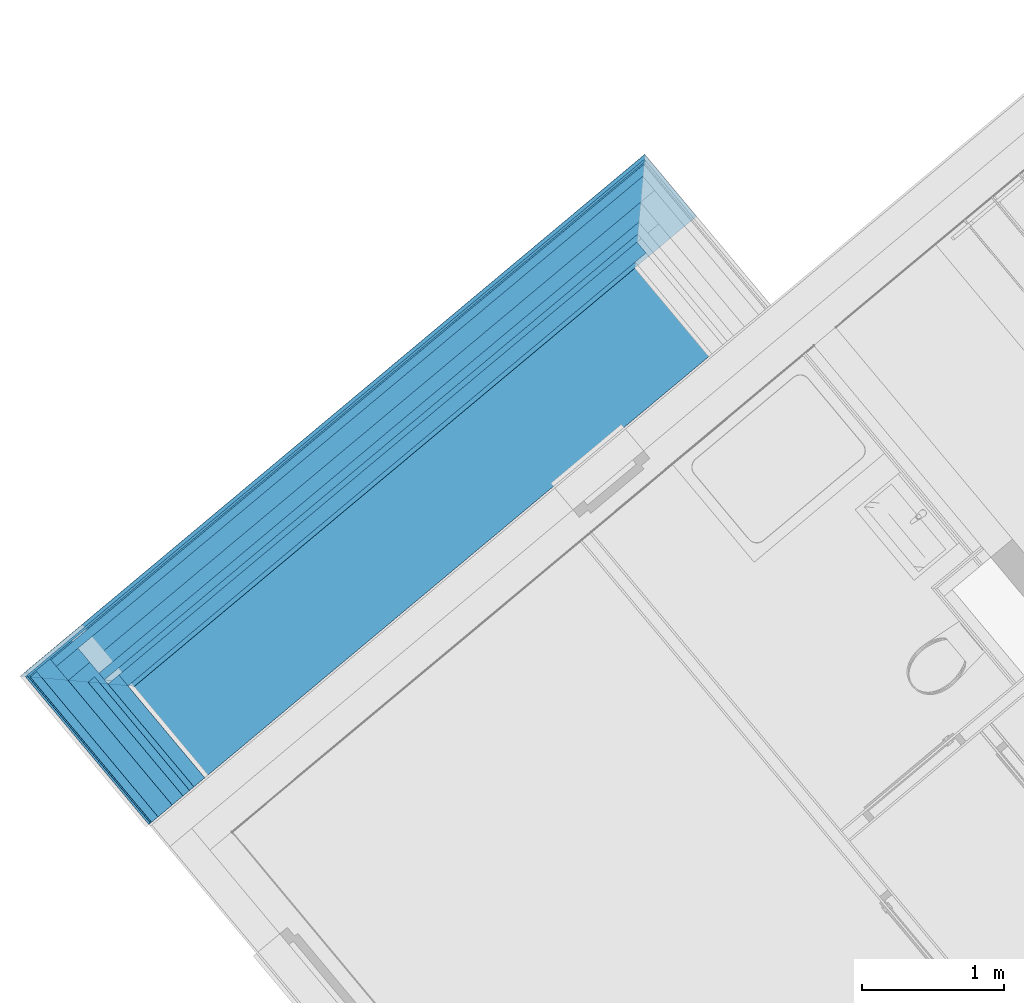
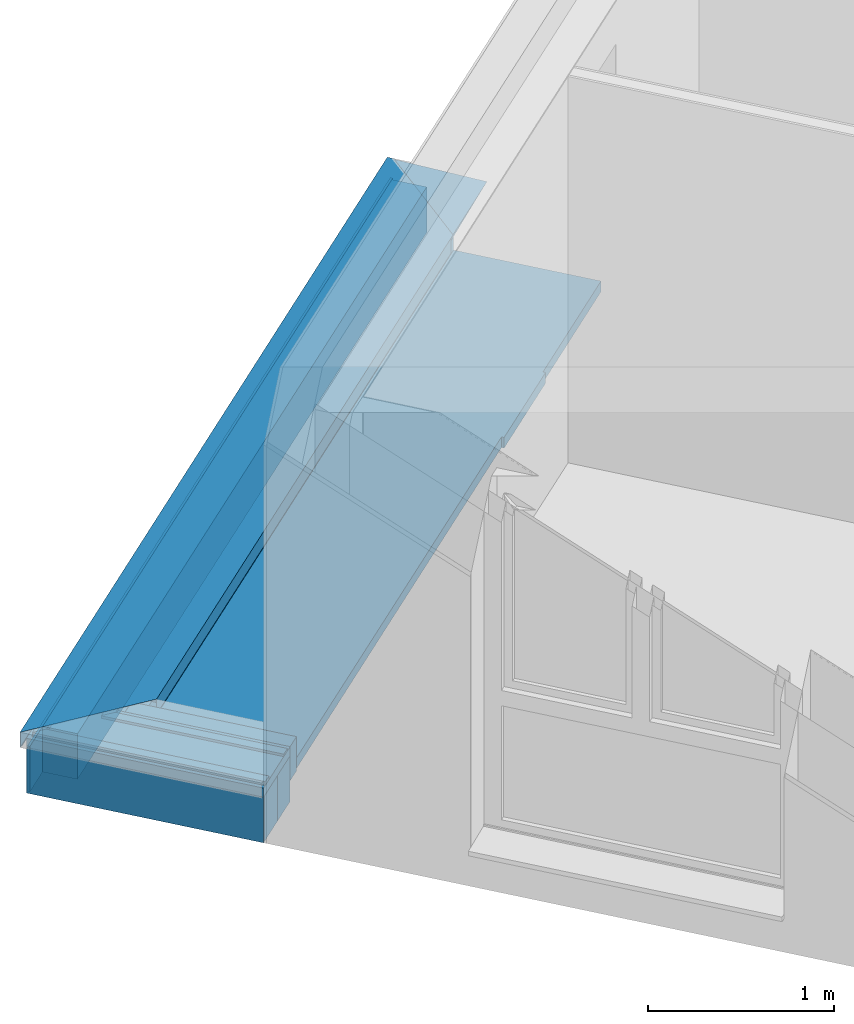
# One storey, part 23 of 58: 16 building element parts, 3 elements without a shape of their own.
"""IFC4 building model written with IfcOpenShell, lengths in metres."""

from ifc_helpers import new_model, entity, si_unit, converted_unit, derived_unit, direction, frame, origin_with_axes, place, context, subcontext, project, spatial, polygons, material, type_object, element, aggregate, save


model = new_model("IFC4")

# Units and contexts
model_context = context("Model", 3, precision=1e-05, world=origin_with_axes(), true_north=direction((0.0, 1.0)))
body_context = subcontext(model_context, "Body", "Model", "MODEL_VIEW")
ifc_project = project(units=[si_unit("LENGTHUNIT", "METRE"), si_unit("AREAUNIT", "SQUARE_METRE"), si_unit("VOLUMEUNIT", "CUBIC_METRE"), converted_unit("PLANEANGLEUNIT", "DEGREE", entity("IfcPlaneAngleMeasure", 0.0174532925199), si_unit("PLANEANGLEUNIT", "RADIAN"), dimensions=[0, 0, 0, 0, 0, 0, 0]), converted_unit("TIMEUNIT", "Year", entity("IfcTimeMeasure", 31556926.0), si_unit("TIMEUNIT", "SECOND"), dimensions=[0, 0, 1, 0, 0, 0, 0]), si_unit("MASSUNIT", "GRAM", prefix="KILO"), si_unit("THERMODYNAMICTEMPERATUREUNIT", "DEGREE_CELSIUS"), si_unit("LUMINOUSINTENSITYUNIT", "LUMEN"), si_unit("ENERGYUNIT", "JOULE", prefix="MEGA"), derived_unit("THERMALCONDUCTANCEUNIT", [(si_unit("POWERUNIT", "WATT"), 1), (si_unit("LENGTHUNIT", "METRE"), -1), (si_unit("THERMODYNAMICTEMPERATUREUNIT", "KELVIN"), -1)]), derived_unit("SPECIFICHEATCAPACITYUNIT", [(si_unit("ENERGYUNIT", "JOULE"), 1), (si_unit("MASSUNIT", "GRAM", prefix="KILO"), -1), (si_unit("THERMODYNAMICTEMPERATUREUNIT", "KELVIN"), -1)]), derived_unit("MASSDENSITYUNIT", [(si_unit("MASSUNIT", "GRAM", prefix="KILO"), 1), (si_unit("VOLUMEUNIT", "CUBIC_METRE"), -1)])], contexts=[model_context])

# Site, building, storey
site_placement = place(None, frame((-0.00153261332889, -0.00661245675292, 0.0), z_axis=(0.0, 0.0, 1.0), x_axis=(1.0, 0.0, 0.0)))
site = spatial("IfcSite", under=ifc_project, at=site_placement, Name="Site", CompositionType="ELEMENT")
building_placement = place(site_placement, origin_with_axes())
building = spatial("IfcBuilding", under=site, at=building_placement, Name="Building", CompositionType="ELEMENT")
storey_placement = place(building_placement, frame((0.0, 0.0, 5.7), z_axis=(0.0, 0.0, 1.0), x_axis=(1.0, 0.0, 0.0)))
storey = spatial("IfcBuildingStorey", under=building, at=storey_placement, Name="DG1", CompositionType="ELEMENT", Elevation=5.7)

# Wall, building element parts
wall_type = type_object("IfcWallType", Name="Bauteil - Attika Terrasse 1.DG 574 x 410", PredefinedType="NOTDEFINED")
wall_1_placement = place(storey_placement, frame((-9.25321199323, 20.0359436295, -0.2), z_axis=(0.0, 0.0, 1.0), x_axis=(0.641209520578, -0.767365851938, 0.0)))
wall_1 = element("IfcWall", 1, at=wall_1_placement, inside=storey, type_object=wall_type, Name="Wand-004", PredefinedType="NOTDEFINED")
ifc_material_1 = material(Name="EPS 1")
building_element_part_1_placement = place(wall_1_placement, origin_with_axes())
building_element_part_1 = element("IfcBuildingElementPart", 2, at=building_element_part_1_placement, material=ifc_material_1, Name="EPS 1", PredefinedType="NOTDEFINED", context=body_context, shape_type="Tessellation", body=[
    polygons([(0.200001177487, 0.3, 0.519224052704), (0.200001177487, 0.3, 0.559999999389), (1.14646030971, 0.3, 0.560000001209), (1.14646030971, 0.3, 0.335), (0.200001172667, 0.3, 0.335), (0.200001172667, 0.3, 0.488695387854), (0.200001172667, 0.3, 0.49100648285), (0.200001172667, 0.3, 0.498822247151), (0.200001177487, 0.3, 0.500000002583), (0.200001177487, 0.3, 0.50905023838), (0.200001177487, 0.3, 0.511361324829), (0.200000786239, 0.2, 0.559999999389), (0.200000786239, 0.2, 0.519224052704), (1.14646030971, 0.2, 0.560000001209), (1.14646030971, 0.2, 0.335), (0.20000078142, 0.2, 0.335), (0.20000078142, 0.2, 0.488695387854), (0.20000078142, 0.2, 0.49100648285), (0.20000078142, 0.2, 0.498822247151), (0.200000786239, 0.2, 0.500000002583), (0.200000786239, 0.2, 0.50905023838), (0.200000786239, 0.2, 0.511361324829)], [[[1, 2, 3, 4, 5, 6, 7, 8, 9, 10, 11]], [[12, 2, 1, 13]], [[2, 12, 14, 3]], [[15, 4, 3, 14]], [[16, 5, 4, 15]], [[17, 6, 5, 16]], [[18, 7, 6, 17]], [[19, 8, 7, 18]], [[20, 9, 8, 19]], [[21, 10, 9, 20]], [[22, 11, 10, 21]], [[13, 1, 11, 22]], [[12, 13, 22, 21, 20, 19, 18, 17, 16, 15, 14]]], closed=True),
])
ifc_material_2 = material(Name="Vollholz")
building_element_part_2_placement = place(wall_1_placement, origin_with_axes())
building_element_part_2 = element("IfcBuildingElementPart", 3, at=building_element_part_2_placement, material=ifc_material_2, Name="Vollholz", PredefinedType="NOTDEFINED", context=body_context, shape_type="Tessellation", body=[
    polygons([(0.10000038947, 0.1, 0.573880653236), (0.10000062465, 0.160110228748, 0.573880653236), (0.100000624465, 0.160063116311, 0.567947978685), (0.10000038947, 0.1, 0.567947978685), (0.10000038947, 0.1, 0.575979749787), (1.14646030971, 0.160110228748, 0.573880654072), (1.14646030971, 0.16, 0.560000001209), (0.100000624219, 0.16, 0.559999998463), (0.10000038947, 0.1, 0.559999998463), (1.14646030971, 0.1, 0.560000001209), (1.14646030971, 0.1, 0.575979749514)], [[[1, 2, 3, 4]], [[5, 2, 1]], [[3, 2, 6, 7, 8]], [[4, 3, 8, 9]], [[5, 1, 4, 9, 10, 11]], [[2, 5, 11, 6]], [[7, 6, 11, 10]], [[9, 8, 7, 10]]], closed=True),
])
ifc_material_3 = material(Name="Stahlbeton")
building_element_part_3_placement = place(wall_1_placement, origin_with_axes())
building_element_part_3 = element("IfcBuildingElementPart", 4, at=building_element_part_3_placement, material=ifc_material_3, Name="Stahlbeton", PredefinedType="NOTDEFINED", context=body_context, shape_type="Tessellation", body=[
    polygons([(7.82254769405e-07, 0.199999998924, 0.498822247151), (7.82254769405e-07, 0.199999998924, 0.499999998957), (1.14646030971, 0.199999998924, 0.500000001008), (1.14646030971, 0.199999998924, 0.335000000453), (7.82254769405e-07, 0.199999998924, 0.335), (7.82254769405e-07, 0.199999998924, 0.488695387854), (7.82254769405e-07, 0.199999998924, 0.49100648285), (-2.39900543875e-10, 1.82835524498e-09, 0.499999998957), (-2.39900543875e-10, 1.82835524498e-09, 0.498822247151), (1.14646030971, 1.82835346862e-09, 0.500000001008), (1.14646030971, 0.199999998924, 0.2), (1.14646030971, 1.82835346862e-09, 0.2), (7.82254772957e-07, 0.199999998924, 0.2), (-2.39900543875e-10, 1.82835524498e-09, 0.488695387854), (-2.39900543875e-10, 1.82835524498e-09, 0.335), (-2.39900543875e-10, 1.82835524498e-09, 0.49100648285), (-2.39900543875e-10, 1.82835524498e-09, 0.2)], [[[1, 2, 3, 4, 5, 6, 7]], [[8, 2, 1, 9]], [[2, 8, 10, 3]], [[11, 4, 3, 10, 12]], [[13, 5, 4, 11]], [[14, 6, 5, 15]], [[16, 7, 6, 14]], [[9, 1, 7, 16]], [[8, 9, 16, 14, 15, 17, 12, 10]], [[17, 13, 11, 12]], [[15, 5, 13, 17]]], closed=True),
])
building_element_part_4_placement = place(wall_1_placement, origin_with_axes())
building_element_part_4 = element("IfcBuildingElementPart", 5, at=building_element_part_4_placement, material=ifc_material_1, Name="EPS 1", PredefinedType="NOTDEFINED", context=body_context, shape_type="Tessellation", body=[
    polygons([(-0.199999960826, -2.39910313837e-10, 0.498822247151), (-0.199999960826, -2.39910313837e-10, 0.499999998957), (1.14646030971, -2.39910313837e-10, 0.499999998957), (1.14646030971, -2.39910313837e-10, 0.2), (-0.199999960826, -2.39910313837e-10, 0.2), (-0.199999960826, -2.39910313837e-10, 0.335), (-0.199999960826, -2.39910313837e-10, 0.488695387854), (-0.199999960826, -2.39910313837e-10, 0.49100648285), (-0.200000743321, -0.19999996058, 0.499999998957), (-0.200000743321, -0.19999996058, 0.498822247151), (1.14646030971, -0.19999996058, 0.499999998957), (1.14646030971, -0.19999996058, 0.2), (-0.200000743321, -0.19999996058, 0.2), (-0.200000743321, -0.19999996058, 0.335), (-0.200000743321, -0.19999996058, 0.488695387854), (-0.200000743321, -0.19999996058, 0.49100648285)], [[[1, 2, 3, 4, 5, 6, 7, 8]], [[9, 2, 1, 10]], [[2, 9, 11, 3]], [[12, 4, 3, 11]], [[13, 5, 4, 12]], [[14, 6, 5, 13]], [[15, 7, 6, 14]], [[16, 8, 7, 15]], [[10, 1, 8, 16]], [[9, 10, 16, 15, 14, 13, 12, 11]]], closed=True),
])
building_element_part_5_placement = place(wall_1_placement, origin_with_axes())
building_element_part_5 = element("IfcBuildingElementPart", 6, at=building_element_part_5_placement, material=ifc_material_2, Name="Vollholz", PredefinedType="NOTDEFINED", context=body_context, shape_type="Tessellation", body=[
    polygons([(-0.189996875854, -0.189996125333, 0.584015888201), (-0.18999664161, -0.130124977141, 0.584015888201), (-0.190039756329, -0.130124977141, 0.575979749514), (-0.190039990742, -0.190039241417, 0.575979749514), (-0.189985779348, -0.189984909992, 0.58610624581), (1.14646030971, -0.130124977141, 0.584015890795), (1.14646030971, -0.130124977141, 0.560000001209), (-0.190125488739, -0.130124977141, 0.559999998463), (-0.190082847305, -0.130124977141, 0.567947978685), (-0.190051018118, -0.130124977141, 0.573880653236), (-0.190051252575, -0.190050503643, 0.573880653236), (-0.190083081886, -0.190082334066, 0.567947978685), (-0.190125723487, -0.190124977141, 0.559999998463), (1.14646030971, -0.190124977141, 0.560000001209), (1.14646030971, -0.189984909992, 0.586106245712)], [[[1, 2, 3, 4]], [[5, 2, 1]], [[3, 2, 6, 7, 8, 9, 10]], [[4, 3, 10, 11]], [[5, 1, 4, 11, 12, 13, 14, 15]], [[2, 5, 15, 6]], [[7, 6, 15, 14]], [[13, 8, 7, 14]], [[12, 9, 8, 13]], [[11, 10, 9, 12]]], closed=True),
])
ifc_material_4 = material(Name="Zementputz")
building_element_part_6_placement = place(wall_1_placement, origin_with_axes())
building_element_part_6 = element("IfcBuildingElementPart", 7, at=building_element_part_6_placement, material=ifc_material_4, Name="Zementputz", PredefinedType="NOTDEFINED", context=body_context, shape_type="Tessellation", body=[
    polygons([(-0.215000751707, -0.199999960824, 0.2), (-0.215000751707, -0.199999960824, 0.499999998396), (1.14646030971, -0.199999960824, 0.499999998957), (1.14646030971, -0.199999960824, 0.2), (-0.215000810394, -0.214999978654, 0.2), (-0.215000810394, -0.214999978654, 0.499999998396), (1.14646030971, -0.214999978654, 0.499999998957), (1.14646030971, -0.214999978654, 0.2)], [[[1, 2, 3, 4]], [[2, 1, 5, 6]], [[2, 6, 7, 3]], [[8, 4, 3, 7]], [[5, 1, 4, 8]], [[6, 5, 8, 7]]], closed=True),
])
ifc_material_5 = material(Name="Brettschichtholz")
building_element_part_7_placement = place(wall_1_placement, origin_with_axes())
building_element_part_7 = element("IfcBuildingElementPart", 8, at=building_element_part_7_placement, material=ifc_material_5, Name="Brettschichtholz", PredefinedType="NOTDEFINED", context=body_context, shape_type="Tessellation", body=[
    polygons([(-0.214999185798, 0.200000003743, 0.519224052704), (-0.214999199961, 0.200000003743, 0.559999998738), (1.14646030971, 0.200000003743, 0.559999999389), (1.14646030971, 0.200000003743, 0.500000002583), (-0.214999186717, 0.200000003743, 0.499999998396), (-0.214999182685, 0.200000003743, 0.50905023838), (-0.21499918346, 0.200000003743, 0.511361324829), (-0.21499935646, 0.159999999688, 0.559999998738), (-0.215000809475, -0.214999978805, 0.519224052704), (-0.215000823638, -0.214999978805, 0.559999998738), (-0.215000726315, -0.190124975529, 0.559999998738), (-0.215000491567, -0.130124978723, 0.559999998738), (-0.214999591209, 0.100000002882, 0.559999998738), (1.14646030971, 0.159999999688, 0.559999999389), (1.14646030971, 0.100000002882, 0.559999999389), (1.14646030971, -0.130124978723, 0.559999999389), (1.14646030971, -0.190124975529, 0.559999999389), (1.14646030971, -0.214999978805, 0.559999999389), (1.14646030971, -0.214999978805, 0.499999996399), (-0.215000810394, -0.214999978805, 0.499999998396), (-0.215000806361, -0.214999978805, 0.50905023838), (-0.215000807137, -0.214999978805, 0.511361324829)], [[[1, 2, 3, 4, 5, 6, 7]], [[8, 2, 1, 9, 10, 11, 12, 13]], [[2, 8, 14, 3]], [[15, 16, 17, 18, 19, 4, 3, 14]], [[19, 20, 5, 4]], [[21, 6, 5, 20]], [[22, 7, 6, 21]], [[9, 1, 7, 22]], [[10, 9, 22, 21, 20, 19, 18]], [[11, 10, 18, 17]], [[12, 11, 17, 16]], [[13, 12, 16, 15]], [[8, 13, 15, 14]]], closed=True),
])
aggregate(wall_1, [building_element_part_1, building_element_part_2, building_element_part_3, building_element_part_4, building_element_part_5, building_element_part_6, building_element_part_7])

wall_2_placement = place(storey_placement, frame((-9.25321199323, 20.0359436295, -0.2), z_axis=(0.0, 0.0, 1.0), x_axis=(0.767368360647, 0.641206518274, 0.0)))
wall_2 = element("IfcWall", 9, at=wall_2_placement, inside=storey, type_object=wall_type, Name="Wand-004", PredefinedType="NOTDEFINED")
building_element_part_8_placement = place(wall_2_placement, origin_with_axes())
building_element_part_8 = element("IfcBuildingElementPart", 10, at=building_element_part_8_placement, material=ifc_material_4, Name="Zementputz", PredefinedType="NOTDEFINED", context=body_context, shape_type="Tessellation", body=[
    polygons([(-0.200000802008, 0.214999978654, 0.499999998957), (-0.200000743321, 0.199999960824, 0.499999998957), (5.48474512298, 0.199999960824, 0.499999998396), (5.48474506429, 0.214999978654, 0.499999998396), (-0.200000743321, 0.199999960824, 0.498822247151), (-0.200000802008, 0.214999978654, 0.498822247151), (-0.200000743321, 0.199999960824, 0.49100648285), (-0.200000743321, 0.199999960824, 0.488695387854), (-0.200000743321, 0.199999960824, 0.335), (-0.200000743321, 0.199999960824, 0.2), (5.48474512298, 0.199999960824, 0.2), (5.48474506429, 0.214999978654, 0.2), (-0.200000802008, 0.214999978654, 0.2), (-0.200000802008, 0.214999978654, 0.335), (-0.200000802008, 0.214999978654, 0.488695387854), (-0.200000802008, 0.214999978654, 0.49100648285)], [[[1, 2, 3, 4]], [[5, 2, 1, 6]], [[2, 5, 7, 8, 9, 10, 11, 3]], [[4, 3, 11, 12]], [[6, 1, 4, 12, 13, 14, 15, 16]], [[5, 6, 16, 7]], [[7, 16, 15, 8]], [[8, 15, 14, 9]], [[9, 14, 13, 10]], [[10, 13, 12, 11]]], closed=True),
])
building_element_part_9_placement = place(wall_2_placement, origin_with_axes())
building_element_part_9 = element("IfcBuildingElementPart", 11, at=building_element_part_9_placement, material=ifc_material_2, Name="Vollholz", PredefinedType="NOTDEFINED", context=body_context, shape_type="Tessellation", body=[
    polygons([(5.45974132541, 0.189996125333, 0.584015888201), (5.45974155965, 0.130124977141, 0.584015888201), (5.45978467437, 0.130124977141, 0.575979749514), (5.45978443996, 0.190039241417, 0.575979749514), (5.45973022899, 0.189984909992, 0.58610624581), (-0.130125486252, 0.130124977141, 0.584015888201), (-0.130125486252, 0.130124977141, 0.575979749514), (-0.130125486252, 0.130124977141, 0.573880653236), (-0.130125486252, 0.130124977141, 0.567947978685), (-0.130125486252, 0.130124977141, 0.560000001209), (5.45987040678, 0.130124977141, 0.559999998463), (5.45982776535, 0.130124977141, 0.567947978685), (5.45979593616, 0.130124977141, 0.573880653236), (5.4597957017, 0.190050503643, 0.573880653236), (5.45982753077, 0.190082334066, 0.567947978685), (5.45987017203, 0.190124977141, 0.559999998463), (-0.130125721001, 0.190124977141, 0.560000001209), (-0.130125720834, 0.190082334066, 0.567947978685), (-0.130125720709, 0.190050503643, 0.573880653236), (-0.130125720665, 0.190039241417, 0.575979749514), (-0.130125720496, 0.189996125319, 0.584015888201), (-0.189985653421, 0.189984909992, 0.586106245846)], [[[1, 2, 3, 4]], [[5, 2, 1]], [[3, 2, 6, 7, 8, 9, 10, 11, 12, 13]], [[4, 3, 13, 14]], [[5, 1, 4, 14, 15, 16, 17, 18, 19, 20, 21, 22]], [[2, 5, 22, 6]], [[6, 21, 20, 7]], [[7, 20, 19, 8]], [[8, 19, 18, 9]], [[9, 18, 17, 10]], [[16, 11, 10, 17]], [[15, 12, 11, 16]], [[14, 13, 12, 15]], [[21, 6, 22]]], closed=True),
])
building_element_part_10_placement = place(wall_2_placement, origin_with_axes())
building_element_part_10 = element("IfcBuildingElementPart", 12, at=building_element_part_10_placement, material=ifc_material_1, Name="EPS 1", PredefinedType="NOTDEFINED", context=body_context, shape_type="Tessellation", body=[
    polygons([(5.46974589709, 2.39911202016e-10, 0.498822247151), (5.46974589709, 2.39911202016e-10, 0.499999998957), (-2.3990853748e-10, 2.39907649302e-10, 0.499999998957), (-2.39910313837e-10, 2.39907649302e-10, 0.498822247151), (-2.39910313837e-10, 2.39907649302e-10, 0.49100648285), (-2.39910313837e-10, 2.39907649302e-10, 0.488695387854), (-2.39910313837e-10, 2.39907649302e-10, 0.335), (-2.39910313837e-10, 2.39907649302e-10, 0.2), (5.46974589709, 2.39911202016e-10, 0.2), (5.46974589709, 2.39911202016e-10, 0.335), (5.46974589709, 2.39911202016e-10, 0.488695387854), (5.46974589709, 2.39911202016e-10, 0.49100648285), (5.4697451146, 0.19999996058, 0.499999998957), (5.4697451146, 0.19999996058, 0.498822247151), (-7.82734434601e-07, 0.19999996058, 0.499999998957), (-7.82734435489e-07, 0.19999996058, 0.498822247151), (-7.82734435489e-07, 0.19999996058, 0.49100648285), (-7.82734435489e-07, 0.19999996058, 0.488695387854), (-7.82734435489e-07, 0.19999996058, 0.335), (-7.82734435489e-07, 0.19999996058, 0.2), (5.4697451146, 0.19999996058, 0.2), (5.4697451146, 0.19999996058, 0.335), (5.4697451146, 0.19999996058, 0.488695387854), (5.4697451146, 0.19999996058, 0.49100648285)], [[[1, 2, 3, 4, 5, 6, 7, 8, 9, 10, 11, 12]], [[13, 2, 1, 14]], [[2, 13, 15, 3]], [[4, 3, 15, 16]], [[4, 16, 17, 5]], [[5, 17, 18, 6]], [[6, 18, 19, 7]], [[7, 19, 20, 8]], [[21, 9, 8, 20]], [[22, 10, 9, 21]], [[23, 11, 10, 22]], [[24, 12, 11, 23]], [[14, 1, 12, 24]], [[13, 14, 24, 23, 22, 21, 20, 19, 18, 17, 16, 15]]], closed=True),
])
building_element_part_11_placement = place(wall_2_placement, origin_with_axes())
building_element_part_11 = element("IfcBuildingElementPart", 13, at=building_element_part_11_placement, material=ifc_material_3, Name="Stahlbeton", PredefinedType="NOTDEFINED", context=body_context, shape_type="Tessellation", body=[
    polygons([(5.269746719, -0.199999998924, 0.498822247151), (5.269746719, -0.199999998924, 0.499999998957), (0.20000078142, -0.199999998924, 0.500000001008), (0.20000078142, -0.199999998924, 0.498822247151), (0.20000078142, -0.199999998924, 0.49100648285), (0.20000078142, -0.199999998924, 0.488695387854), (0.20000078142, -0.199999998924, 0.335), (5.269746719, -0.199999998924, 0.335), (5.269746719, -0.199999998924, 0.488695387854), (5.269746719, -0.199999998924, 0.49100648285), (5.2697459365, -1.82835790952e-09, 0.499999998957), (5.2697459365, -1.82835790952e-09, 0.498822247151), (0.199999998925, -1.82835790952e-09, 0.500000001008), (0.199999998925, -1.82835790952e-09, 0.498822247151), (0.199999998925, -1.82835790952e-09, 0.49100648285), (0.199999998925, -1.82835790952e-09, 0.488695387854), (0.199999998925, -1.82835790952e-09, 0.335), (5.269746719, -0.199999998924, 0.2), (0.20000078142, -0.199999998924, 0.2), (5.2697459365, -1.82835790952e-09, 0.488695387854), (5.2697459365, -1.82835790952e-09, 0.335), (5.2697459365, -1.82835790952e-09, 0.49100648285), (5.2697459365, -1.82835790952e-09, 0.2), (0.199999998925, -1.82835790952e-09, 0.2)], [[[1, 2, 3, 4, 5, 6, 7, 8, 9, 10]], [[11, 2, 1, 12]], [[2, 11, 13, 3]], [[4, 3, 13, 14]], [[4, 14, 15, 5]], [[5, 15, 16, 6]], [[6, 16, 17, 7]], [[18, 8, 7, 19]], [[20, 9, 8, 21]], [[22, 10, 9, 20]], [[12, 1, 10, 22]], [[11, 12, 22, 20, 21, 23, 24, 17, 16, 15, 14, 13]], [[7, 17, 24, 19]], [[21, 8, 18, 23]], [[23, 18, 19, 24]]], closed=True),
])
building_element_part_12_placement = place(wall_2_placement, origin_with_axes())
building_element_part_12 = element("IfcBuildingElementPart", 14, at=building_element_part_12_placement, material=ifc_material_2, Name="Vollholz", PredefinedType="NOTDEFINED", context=body_context, shape_type="Tessellation", body=[
    polygons([(5.16974632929, -0.1, 0.573880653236), (5.16974656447, -0.160110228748, 0.573880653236), (5.16974656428, -0.160063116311, 0.567947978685), (5.16974632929, -0.1, 0.567947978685), (5.16974632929, -0.1, 0.575979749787), (0.160110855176, -0.160110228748, 0.573880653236), (0.160063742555, -0.160063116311, 0.567947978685), (0.160000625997, -0.16, 0.560000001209), (5.16974656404, -0.16, 0.559999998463), (5.16974632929, -0.1, 0.559999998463), (0.160000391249, -0.1, 0.560000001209), (0.16006350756, -0.1, 0.567947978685), (0.160110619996, -0.1, 0.573880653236), (0.100000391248, -0.1, 0.575979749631)], [[[1, 2, 3, 4]], [[5, 2, 1]], [[3, 2, 6, 7, 8, 9]], [[4, 3, 9, 10]], [[5, 1, 4, 10, 11, 12, 13, 14]], [[2, 5, 14, 6]], [[6, 13, 12, 7]], [[7, 12, 11, 8]], [[10, 9, 8, 11]], [[13, 6, 14]]], closed=True),
])
building_element_part_13_placement = place(wall_2_placement, origin_with_axes())
building_element_part_13 = element("IfcBuildingElementPart", 15, at=building_element_part_13_placement, material=ifc_material_1, Name="EPS 1", PredefinedType="NOTDEFINED", context=body_context, shape_type="Tessellation", body=[
    polygons([(5.06974710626, -0.3, 0.519224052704), (5.06974710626, -0.3, 0.559999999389), (0.300001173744, -0.3, 0.560000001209), (0.300001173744, -0.3, 0.519224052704), (0.300001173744, -0.3, 0.511361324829), (0.300001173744, -0.3, 0.50905023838), (0.300001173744, -0.3, 0.499999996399), (0.300001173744, -0.3, 0.498822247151), (0.300001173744, -0.3, 0.49100648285), (0.300001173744, -0.3, 0.488695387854), (0.300001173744, -0.3, 0.335), (5.06974711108, -0.3, 0.335), (5.06974711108, -0.3, 0.488695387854), (5.06974711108, -0.3, 0.49100648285), (5.06974711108, -0.3, 0.498822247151), (5.06974710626, -0.3, 0.500000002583), (5.06974710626, -0.3, 0.50905023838), (5.06974710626, -0.3, 0.511361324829), (5.06974671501, -0.2, 0.559999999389), (5.06974671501, -0.2, 0.519224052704), (0.300000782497, -0.2, 0.560000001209), (0.300000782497, -0.2, 0.519224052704), (0.300000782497, -0.2, 0.511361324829), (0.300000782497, -0.2, 0.50905023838), (0.300000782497, -0.2, 0.499999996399), (0.300000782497, -0.2, 0.498822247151), (0.300000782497, -0.2, 0.49100648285), (0.300000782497, -0.2, 0.488695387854), (0.300000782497, -0.2, 0.335), (5.06974671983, -0.2, 0.335), (5.06974671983, -0.2, 0.488695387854), (5.06974671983, -0.2, 0.49100648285), (5.06974671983, -0.2, 0.498822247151), (5.06974671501, -0.2, 0.500000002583), (5.06974671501, -0.2, 0.50905023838), (5.06974671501, -0.2, 0.511361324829)], [[[1, 2, 3, 4, 5, 6, 7, 8, 9, 10, 11, 12, 13, 14, 15, 16, 17, 18]], [[19, 2, 1, 20]], [[2, 19, 21, 3]], [[4, 3, 21, 22]], [[4, 22, 23, 5]], [[5, 23, 24, 6]], [[6, 24, 25, 7]], [[7, 25, 26, 8]], [[8, 26, 27, 9]], [[9, 27, 28, 10]], [[10, 28, 29, 11]], [[30, 12, 11, 29]], [[31, 13, 12, 30]], [[32, 14, 13, 31]], [[33, 15, 14, 32]], [[34, 16, 15, 33]], [[35, 17, 16, 34]], [[36, 18, 17, 35]], [[20, 1, 18, 36]], [[19, 20, 36, 35, 34, 33, 32, 31, 30, 29, 28, 27, 26, 25, 24, 23, 22, 21]]], closed=True),
])
ifc_material_6 = material(Name="Holzwerkstoff")
building_element_part_14_placement = place(wall_2_placement, origin_with_axes())
building_element_part_14 = element("IfcBuildingElementPart", 16, at=building_element_part_14_placement, material=ifc_material_6, Name="Holzwerkstoff", PredefinedType="NOTDEFINED", context=body_context, shape_type="Tessellation", body=[
    polygons([(0.330207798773, -0.160110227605, 0.573880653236), (0.330001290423, -0.329999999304, 0.567947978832), (0.330208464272, -0.330207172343, 0.573880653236), (5.10963631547, -0.160110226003, 0.573880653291), (4.93974723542, -0.329999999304, 0.567947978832), (0.330281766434, -0.330280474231, 0.57597974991), (5.10963700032, -0.330207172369, 0.573880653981), (5.16974722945, -0.330280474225, 0.575979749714), (5.39987221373, -0.33056110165, 0.58401588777), (5.45973213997, -0.33063409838, 0.586106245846), (5.50974721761, -0.33069508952, 0.587852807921), (5.50974426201, -0.330698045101, 0.587937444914), (0.330699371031, -0.330698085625, 0.587938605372), (0.330635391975, -0.330634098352, 0.586106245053), (0.330562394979, -0.330561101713, 0.584015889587), (0.330280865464, -0.100000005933, 0.575979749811), (5.16974632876, -0.100000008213, 0.575979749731), (5.39987041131, 0.130124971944, 0.58401588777), (5.45972997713, 0.189984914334, 0.586106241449), (5.50974498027, 0.239999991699, 0.587852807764), (5.50974202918, 0.239997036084, 0.587937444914), (-0.239277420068, 0.239276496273, 0.608570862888), (5.50902149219, 0.239276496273, 0.608570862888), (0.330697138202, 0.23999699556, 0.587938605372), (0.330694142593, 0.239999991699, 0.587852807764), (0.330633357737, 0.189985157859, 0.586106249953), (0.330560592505, 0.130124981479, 0.584015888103)], [[[1, 2, 3]], [[2, 1, 4, 5]], [[6, 3, 2, 5, 7, 8, 9, 10, 11, 12, 13, 14, 15]], [[3, 6, 16, 1]], [[1, 16, 17, 4]], [[5, 4, 7]], [[7, 4, 17, 8]], [[8, 17, 18, 9]], [[18, 19, 10, 9]], [[19, 20, 11, 10]], [[20, 21, 12, 11]], [[22, 13, 12, 23]], [[14, 13, 24, 25, 26]], [[15, 14, 26, 27]], [[16, 6, 15, 27]], [[16, 27, 18, 17]], [[27, 26, 19, 18]], [[26, 25, 20, 19]], [[25, 24, 22, 23, 21, 20]], [[21, 23, 12]], [[13, 22, 24]]], closed=True),
])
ifc_material_7 = material(Name="Stahl")
building_element_part_15_placement = place(wall_2_placement, origin_with_axes())
building_element_part_15 = element("IfcBuildingElementPart", 17, at=building_element_part_15_placement, material=ifc_material_7, Name="Stahl", PredefinedType="NOTDEFINED", context=body_context, shape_type="Tessellation", body=[
    polygons([(-0.238232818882, 0.238231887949, 0.51136132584), (-0.231374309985, 0.231373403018, 0.518219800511), (-0.231374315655, 0.233287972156, 0.518219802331), (-0.238232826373, 0.240146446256, 0.511361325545), (-0.240543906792, 0.240542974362, 0.50905023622), (5.51028796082, 0.240542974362, 0.50905023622), (5.51124525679, 0.239585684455, 0.510007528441), (5.51124525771, 0.238231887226, 0.511361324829), (5.50989145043, 0.23823188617, 0.511361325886), (5.50303300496, 0.231373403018, 0.518219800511), (-0.232284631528, 0.232283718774, 0.519224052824), (5.50202875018, 0.232283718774, 0.519224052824), (5.50989144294, 0.240146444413, 0.511361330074), (-0.23823283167, 0.241500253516, 0.511361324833), (-0.239586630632, 0.241500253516, 0.510007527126), (5.5112452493, 0.241500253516, 0.510007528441), (5.5112452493, 0.241500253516, 0.610006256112), (5.5112453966, 0.202730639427, 0.608602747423), (5.51124525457, 0.240152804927, 0.608602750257), (5.51124525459, 0.240146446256, 0.51136132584), (-0.240147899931, 0.240146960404, 0.519224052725), (-0.240147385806, 0.240146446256, 0.51136132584), (5.50989780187, 0.240152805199, 0.608602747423), (-0.202731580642, 0.240152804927, 0.608602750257), (-0.240153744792, 0.240152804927, 0.608602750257), (-0.240153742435, 0.240152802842, 0.608570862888), (-0.240152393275, 0.240151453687, 0.587938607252), (-0.240152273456, 0.240151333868, 0.586106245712), (-0.240152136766, 0.240151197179, 0.584015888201), (-0.240151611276, 0.240150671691, 0.575979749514), (-0.240151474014, 0.24015053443, 0.573880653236), (-0.240151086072, 0.240150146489, 0.567947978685), (-0.240150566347, 0.240149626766, 0.559999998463), (-0.240147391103, 0.241500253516, 0.511361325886), (-0.240147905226, 0.241500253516, 0.519224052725), (-0.240150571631, 0.241500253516, 0.559999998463), (-0.240151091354, 0.241500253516, 0.567947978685), (-0.240151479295, 0.241500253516, 0.573880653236), (-0.240151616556, 0.241500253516, 0.575979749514), (-0.240152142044, 0.241500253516, 0.584015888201), (-0.240152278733, 0.241500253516, 0.586106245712), (-0.240152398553, 0.241500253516, 0.587938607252), (-0.240153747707, 0.241500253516, 0.608570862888), (-0.240153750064, 0.241500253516, 0.608602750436), (-0.202731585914, 0.241500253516, 0.608602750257), (-0.241501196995, 0.241500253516, 0.610006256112), (-0.202731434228, 0.202730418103, 0.608602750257), (-0.201850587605, 0.201849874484, 0.608570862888), (0.332053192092, -0.332051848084, 0.589243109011), (4.97508643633, -0.332051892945, 0.589243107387), (5.5090216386, 0.201849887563, 0.608570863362), (5.50989794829, 0.202730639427, 0.608602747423), (-0.201850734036, 0.239276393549, 0.608570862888), (5.50902149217, 0.239276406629, 0.608570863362), (0.332053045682, -0.294630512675, 0.589243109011), (0.332053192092, -0.332051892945, 0.49100648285), (0.332053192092, -0.332051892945, 0.489652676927), (4.93960992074, -0.332051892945, 0.489652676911), (4.94096372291, -0.332051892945, 0.49100648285), (4.93904914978, -0.332051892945, 0.491006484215), (4.93904915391, -0.332051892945, 0.498822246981), (4.93904915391, -0.332051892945, 0.499999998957), (4.93904915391, -0.332051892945, 0.50905023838), (4.93904915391, -0.332051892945, 0.511361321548), (4.93904915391, -0.332051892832, 0.519224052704), (4.93904915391, -0.332051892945, 0.559999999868), (4.93904915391, -0.332051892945, 0.567947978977), (4.93904915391, -0.332051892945, 0.573880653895), (4.93904915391, -0.332051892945, 0.575979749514), (4.93904915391, -0.332051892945, 0.584015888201), (4.93904915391, -0.332051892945, 0.586106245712), (4.93904914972, -0.332051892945, 0.587938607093), (0.332053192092, -0.332051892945, 0.587938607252), (0.332053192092, -0.332051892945, 0.586106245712), (0.332053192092, -0.332051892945, 0.584015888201), (0.332053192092, -0.332051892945, 0.575979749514), (0.332053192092, -0.332051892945, 0.573880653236), (0.332053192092, -0.332051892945, 0.567947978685), (0.332053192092, -0.332051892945, 0.559999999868), (0.332053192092, -0.332051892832, 0.519224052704), (0.332053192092, -0.332051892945, 0.511361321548), (0.332053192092, -0.332051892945, 0.50905023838), (0.332053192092, -0.332051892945, 0.499999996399), (0.332053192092, -0.332051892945, 0.498822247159), (4.93904918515, -0.330698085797, 0.587937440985), (4.9390491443, -0.330665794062, 0.587938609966), (0.332053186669, -0.330665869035, 0.587938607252), (0.332053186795, -0.330698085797, 0.587937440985), (0.332053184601, -0.330137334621, 0.489652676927), (0.332053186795, -0.330698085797, 0.49100648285), (0.332053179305, -0.328783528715, 0.491006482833), (0.331095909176, -0.331094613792, 0.488695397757), (4.9386526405, -0.331094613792, 0.488695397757), (4.94096371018, -0.328783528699, 0.49100648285), (4.94096371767, -0.330698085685, 0.491006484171), (4.93904914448, -0.330698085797, 0.491006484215), (4.93904914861, -0.330698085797, 0.498822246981), (4.93904914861, -0.330698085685, 0.499999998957), (4.93904914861, -0.330698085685, 0.50905023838), (4.93904914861, -0.330698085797, 0.511361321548), (4.93904914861, -0.330698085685, 0.519224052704), (4.93904914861, -0.330698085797, 0.559999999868), (4.93904914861, -0.330698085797, 0.567947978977), (4.93904914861, -0.330698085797, 0.573880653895), (4.93904914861, -0.330698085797, 0.575979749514), (4.93904914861, -0.330698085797, 0.584015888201), (4.93904914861, -0.330698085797, 0.586106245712), (0.332053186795, -0.330698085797, 0.586106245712), (0.332053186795, -0.330698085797, 0.584015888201), (0.332053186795, -0.330698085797, 0.575979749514), (0.332053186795, -0.330698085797, 0.573880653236), (0.332053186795, -0.330698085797, 0.567947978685), (0.332053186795, -0.330698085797, 0.559999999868), (0.332053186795, -0.330698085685, 0.519224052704), (0.332053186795, -0.330698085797, 0.511361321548), (0.332053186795, -0.330698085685, 0.50905023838), (0.332053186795, -0.330698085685, 0.499999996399), (0.332053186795, -0.330698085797, 0.498822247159), (0.33069937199, -0.328783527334, 0.491006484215), (0.33069937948, -0.330698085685, 0.491006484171), (0.323793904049, -0.321878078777, 0.497911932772), (4.94786911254, -0.321878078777, 0.497911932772), (4.94786912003, -0.323792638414, 0.497911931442), (4.94686486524, -0.32288233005, 0.498822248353), (0.32288359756, -0.32288233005, 0.498822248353)], [[[1, 2, 3, 4]], [[1, 5, 6, 7, 8, 9, 10, 2]], [[3, 2, 11]], [[3, 11, 12, 13, 4]], [[5, 1, 4, 14, 15]], [[5, 15, 16, 6]], [[6, 16, 7]], [[7, 16, 17, 18, 19, 20, 8]], [[9, 8, 20, 13]], [[10, 9, 13, 12]], [[11, 2, 10, 12]], [[21, 22, 4, 13, 20, 19, 23, 24, 25, 26, 27, 28, 29, 30, 31, 32, 33]], [[22, 34, 14, 4]], [[14, 34, 35, 36, 37, 38, 39, 40, 41, 42, 43, 44, 45, 46, 17, 16, 15]], [[46, 47, 48, 49, 50, 51, 52, 18, 17]], [[18, 52, 23, 19]], [[22, 21, 35, 34]], [[53, 24, 23, 54]], [[44, 25, 24, 45]], [[43, 26, 25, 44]], [[43, 42, 27, 26]], [[41, 28, 27, 42]], [[40, 29, 28, 41]], [[29, 40, 39, 30]], [[31, 30, 39, 38]], [[32, 31, 38, 37]], [[33, 32, 37, 36]], [[21, 33, 36, 35]], [[47, 46, 45, 24]], [[48, 47, 24, 53]], [[48, 53, 55, 49]], [[56, 57, 58, 59, 60, 61, 62, 63, 64, 65, 66, 67, 68, 69, 70, 71, 72, 50, 49, 73, 74, 75, 76, 77, 78, 79, 80, 81, 82, 83, 84]], [[85, 86, 54, 51, 50, 72]], [[51, 54, 23, 52]], [[87, 55, 53, 54, 86, 85, 88]], [[55, 87, 88, 73, 49]], [[89, 57, 56, 90, 91]], [[57, 92, 93, 58]], [[93, 94, 95, 59, 58]], [[96, 60, 59, 95]], [[96, 97, 61, 60]], [[98, 62, 61, 97]], [[62, 98, 99, 63]], [[63, 99, 100, 64]], [[64, 100, 101, 65]], [[101, 102, 66, 65]], [[102, 103, 67, 66]], [[103, 104, 68, 67]], [[68, 104, 105, 69]], [[69, 105, 106, 70]], [[106, 107, 71, 70]], [[107, 85, 72, 71]], [[74, 73, 88, 108]], [[75, 74, 108, 109]], [[76, 75, 109, 110]], [[111, 77, 76, 110]], [[111, 112, 78, 77]], [[112, 113, 79, 78]], [[79, 113, 114, 80]], [[115, 81, 80, 114]], [[116, 82, 81, 115]], [[116, 117, 83, 82]], [[118, 84, 83, 117]], [[118, 90, 56, 84]], [[90, 118, 117, 116, 115, 114, 113, 112, 111, 110, 109, 108, 88, 85, 107, 106, 105, 104, 103, 102, 101, 100, 99, 98, 97, 96]], [[89, 92, 57]], [[119, 91, 90, 120]], [[92, 89, 91, 119, 121, 122, 94, 93]], [[95, 94, 122, 123]], [[120, 90, 96, 95, 123, 124, 125]], [[119, 120, 125, 121]], [[121, 125, 124, 122]], [[123, 122, 124]]], closed=True),
])
aggregate(wall_2, [building_element_part_8, building_element_part_9, building_element_part_10, building_element_part_11, building_element_part_12, building_element_part_13, building_element_part_14, building_element_part_15])

# Covering, building element part
covering_type = type_object("IfcCoveringType", Name="Balkon vor Terrasse Kies 220", PredefinedType="NOTDEFINED")
covering_placement = place(storey_placement, frame((-8.35499941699, 19.2729205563, 0.0), z_axis=(0.0, 0.0, 1.0), x_axis=(1.0, 0.0, 0.0)))
covering = element("IfcCovering", 18, at=covering_placement, inside=storey, type_object=covering_type, Name="Decke-005", PredefinedType="NOTDEFINED")
ifc_material_8 = material(Name="Kies")
building_element_part_16_placement = place(covering_placement, origin_with_axes())
building_element_part_16 = element("IfcBuildingElementPart", 19, at=building_element_part_16_placement, material=ifc_material_8, Name="Kies", PredefinedType="NOTDEFINED", context=body_context, shape_type="Tessellation", body=[
    polygons([(3.03896332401, 2.53935226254, 0.22), (3.0293451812, 2.55086275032, 0.22), (3.72725528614, 3.13403517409, 0.22), (3.12039137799, 3.86030356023, 0.22), (-0.616497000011, 0.737791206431, 0.22), (-0.00961814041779, 0.011510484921, 0.22), (2.53055737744, 2.13407656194, 0.22), (2.54017552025, 2.12256607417, 0.22), (3.03896332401, 2.53935226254, 0.15), (3.0293451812, 2.55086275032, 0.15), (3.72725528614, 3.13403517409, 0.15), (3.12039137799, 3.86030356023, 0.15), (-0.616497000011, 0.737791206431, 0.15), (-0.00961814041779, 0.011510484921, 0.15), (2.53055737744, 2.13407656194, 0.15), (2.54017552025, 2.12256607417, 0.15)], [[[1, 2, 3, 4, 5, 6, 7, 8]], [[2, 1, 9, 10]], [[11, 3, 2, 10]], [[3, 11, 12, 4]], [[12, 13, 5, 4]], [[14, 6, 5, 13]], [[7, 6, 14, 15]], [[16, 8, 7, 15]], [[9, 1, 8, 16]], [[10, 9, 16, 15, 14, 13, 12, 11]]], closed=True),
])
aggregate(covering, [building_element_part_16])

save(model, "model.ifc")
